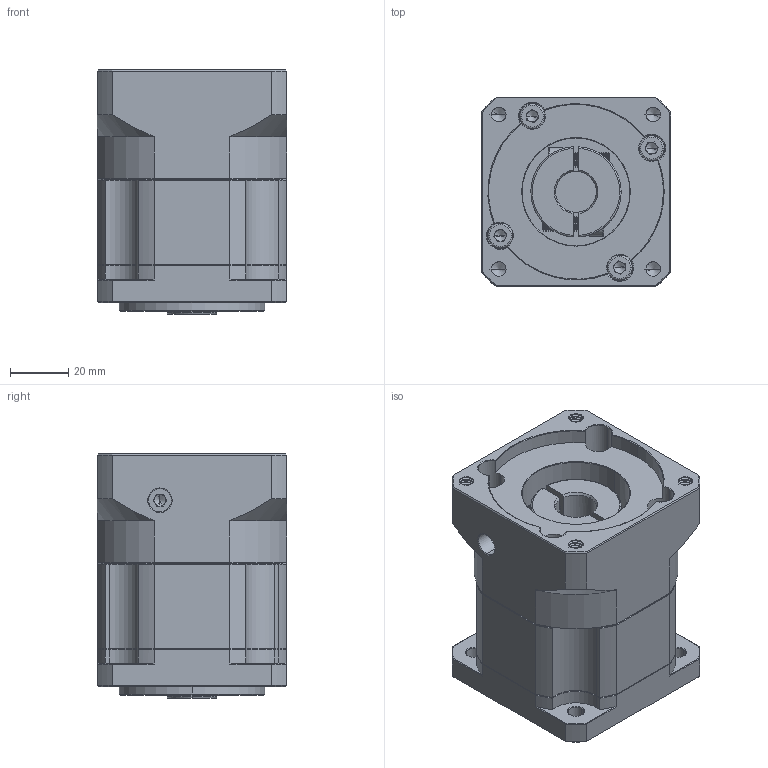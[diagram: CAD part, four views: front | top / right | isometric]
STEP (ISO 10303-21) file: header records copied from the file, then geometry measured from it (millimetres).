
FILE_DESCRIPTION (( 'STEP AP214' ), '1' );
FILE_NAME ('ZB60-K10-L1-14-60-75-M6.STEP', '2022-04-17T07:41:48', ( '' ), ( 'Microsoft' ), 'SwSTEP 2.0', 'SolidWorks 2016', '' );
FILE_SCHEMA (( 'AUTOMOTIVE_DESIGN' ));
Length unit declared in the file: millimetre
Products named in the file (1): ZB60-K10-L1-14-60-75-M6
Bounding box: 65 x 65 x 84 mm (x, y, z)
Volume: 257301.5 mm3; surface area: 53968.6 mm2
Topology: 6 solids, 6 shells, 1837 faces, 4878 edges, 3123 vertices
Faces by surface type: plane 876, cylinder 353, bspline 292, cone 282, torus 34
Entity records: 95823 total; most frequent: CARTESIAN_POINT 32049, ORIENTED_EDGE 9700, DIRECTION 8061, EDGE_CURVE 4850, VERTEX_POINT 3123, VECTOR 2995, LINE 2995, AXIS2_PLACEMENT_3D 2533
